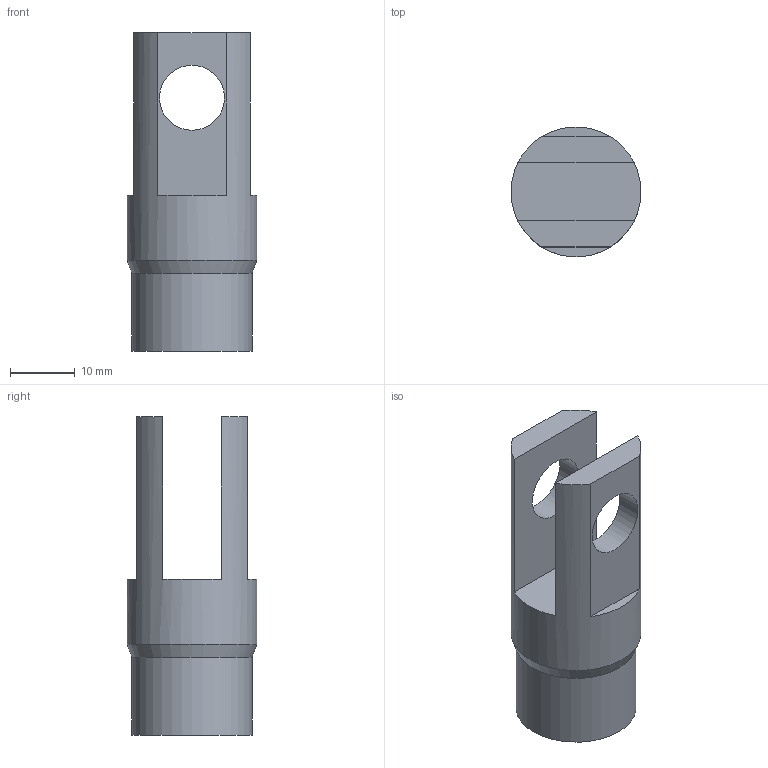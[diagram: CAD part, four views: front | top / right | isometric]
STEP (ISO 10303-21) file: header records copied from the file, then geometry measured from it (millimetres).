
FILE_DESCRIPTION(/* description */ ('Unknown'),/* implementation_level */ '2;1');
FILE_NAME(/* name */ 'WK25_WK30_Y',/* time_stamp */ '2026-07-17T16:40:02+08:00',/* author */ ('Unknown'),/* organization */ ('Unknown'),/* preprocessor_version */ 'ST-DEVELOPER v16.7',/* originating_system */ 'DEX',/* authorisation */ $);
FILE_SCHEMA (('CONFIG_CONTROL_DESIGN'));
Length unit declared in the file: millimetre
Products named in the file (1): WK25_WK30_Y
Bounding box: 20 x 19.98 x 49 mm (x, y, z)
Volume: 8161.8 mm3; surface area: 4448.9 mm2
Topology: 1 solids, 1 shells, 17 faces, 45 edges, 30 vertices
Faces by surface type: plane 10, cylinder 5, cone 2
Full cylindrical faces by diameter (mm): 8.75 x1, 10 x2, 18.5 x1, 20 x1
Entity records: 611 total; most frequent: DIRECTION 86, CARTESIAN_POINT 77, ORIENTED_EDGE 66, AXIS2_PLACEMENT_3D 35, EDGE_CURVE 33, FACE_BOUND 29, EDGE_LOOP 28, VERTEX_POINT 26
